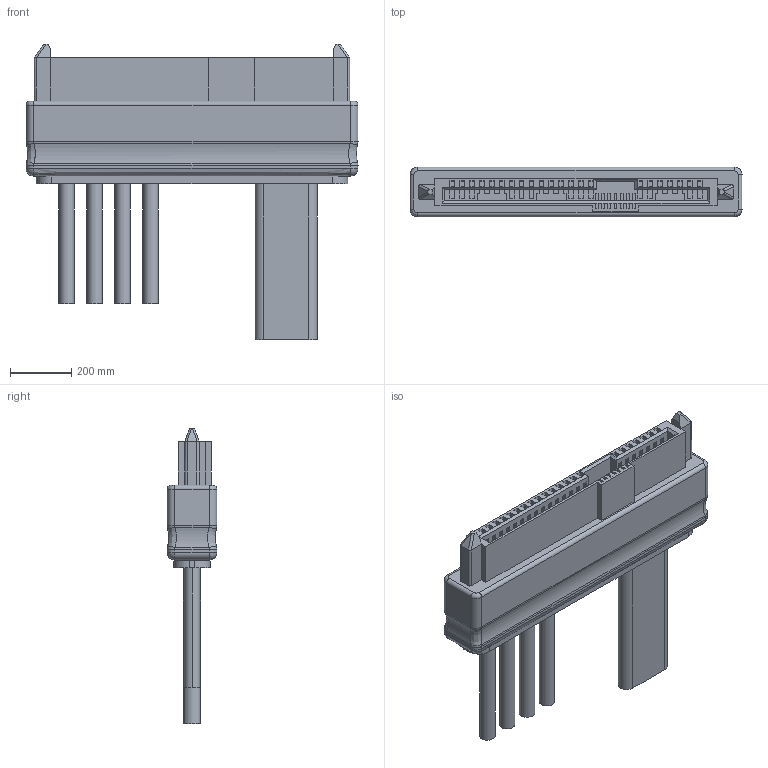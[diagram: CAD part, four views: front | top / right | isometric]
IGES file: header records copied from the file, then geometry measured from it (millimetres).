
Start section:  PTC IGES file: sas22p_female_straight_16_2mm_.igs
Global section: file name: sas22p_female_straight_16_2mm_.igs; native system: Creo Parametric by Parametric Technology Corporation; preprocessor: 2012130; author: Linoliu; organization: Unknown; date: 20140707.152441; units: inch
Bounding box: 1082.04 x 162.56 x 962.66 mm (x, y, z)
Surface area: 2294154.2 mm2 (no closed solid volume)
Topology: 0 solids, 0 shells, 647 faces, 3830 edges, 3818 vertices
Faces by surface type: bspline 577, revolution 70
